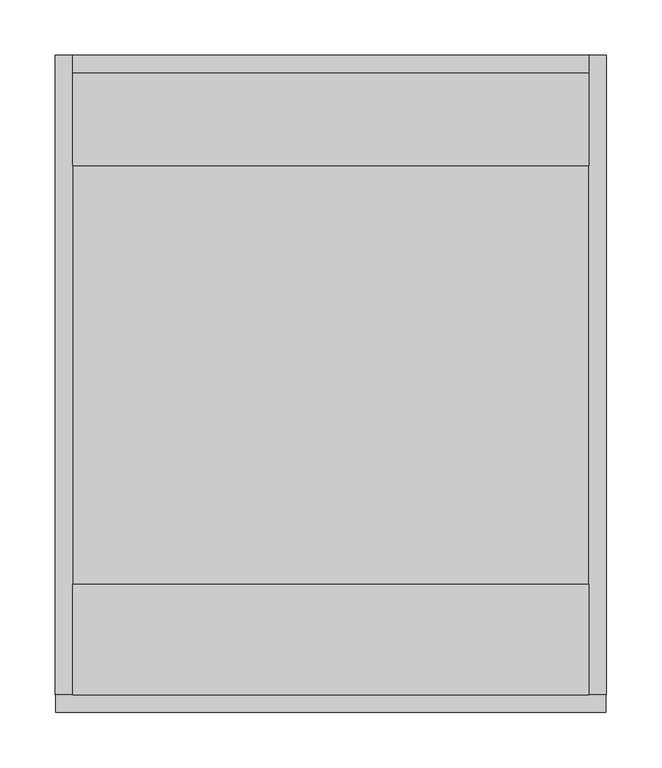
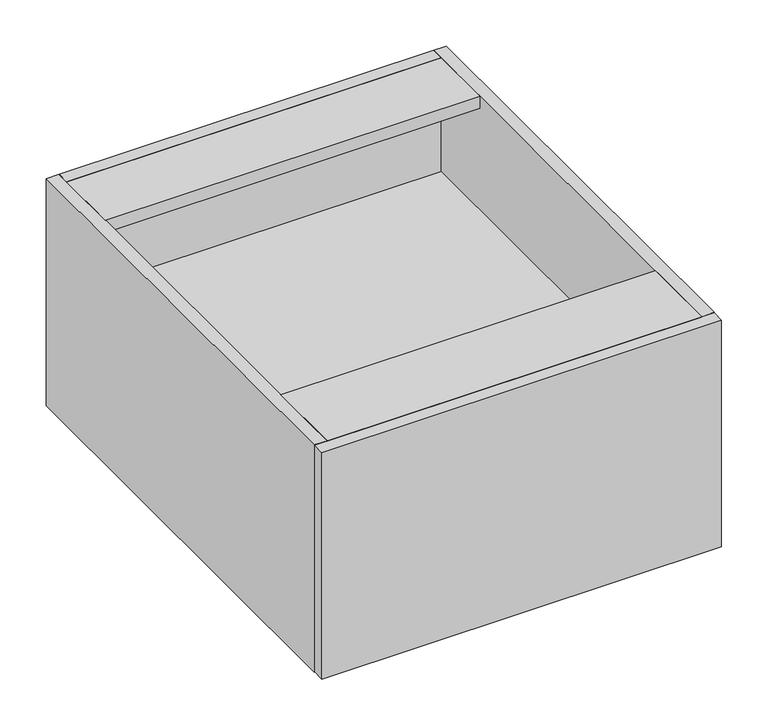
"""IFC4 building model written with IfcOpenShell, lengths in millimetres: furniture geometry, یونیت 1 در عمودی : یونیت 1 در عمودی."""

from ifc_helpers import new_model, si_unit, frame, origin, place, context, project, spatial, polyline, outline, extrude, faceted_brep, source, transform, mapped, element, save


def furniture_4b3c3050(model_context):
    return source(origin(), model_context, "Body", "SolidModel", [
        extrude(outline(polyline([(234.0, 0.0), (234.0, -16.0), (-234.0, -16.0), (-234.0, 0.0), (234.0, 0.0)])), frame((0.0, 0.0, 500.0), z_axis=(0.0, 0.0, 1.0), x_axis=(1.0, 0.0, 0.0)), (0.0, 0.0, 1.0), 300.0),
        extrude(outline(polyline([(234.0, -16.0), (234.0, -100.0), (-234.0, -100.0), (-234.0, -16.0), (234.0, -16.0)])), frame((0.0, 0.0, 784.0), z_axis=(0.0, 0.0, 1.0), x_axis=(1.0, 0.0, 0.0)), (0.0, 0.0, 1.0), 16.0),
        extrude(outline(polyline([(234.0, -480.0), (234.0, -580.0), (-234.0, -580.0), (-234.0, -480.0), (234.0, -480.0)])), frame((0.0, 0.0, 784.0), z_axis=(0.0, 0.0, 1.0), x_axis=(1.0, 0.0, 0.0)), (0.0, 0.0, 1.0), 16.0),
        extrude(outline(polyline([(234.0, -16.0), (234.0, -580.0), (-234.0, -580.0), (-234.0, -16.0), (234.0, -16.0)])), frame((0.0, 0.0, 500.0), z_axis=(0.0, 0.0, 1.0), x_axis=(1.0, 0.0, 0.0)), (0.0, 0.0, 1.0), 16.0),
        extrude(outline(polyline([(234.0, -16.0), (234.0, -480.0), (-234.0, -480.0), (-234.0, -16.0), (234.0, -16.0)])), frame((0.0, 0.0, 634.0), z_axis=(0.0, 0.0, 1.0), x_axis=(1.0, 0.0, 0.0)), (0.0, 0.0, 1.0), 16.0),
        extrude(outline(polyline([(249.6, -596.0), (-249.6, -596.0), (-249.6, -580.0), (249.6, -580.0), (249.6, -596.0)])), frame((0.0, 0.0, 500.4), z_axis=(0.0, 0.0, 1.0), x_axis=(1.0, 0.0, 0.0)), (0.0, 0.0, 1.0), 299.2),
        extrude(outline(polyline([(244.0, -468.0), (244.0, -480.0), (235.0, -480.0), (235.0, -479.0), (243.0, -479.0), (243.0, -469.0), (235.0, -469.0), (235.0, -468.0), (244.0, -468.0)])), frame((0.0, 0.0, 516.0), z_axis=(0.0, 0.0, 1.0), x_axis=(1.0, 0.0, 0.0)), (0.0, 0.0, 1.0), 268.0),
        extrude(outline(polyline([(-244.0, -468.0), (-235.0, -468.0), (-235.0, -469.0), (-243.0, -469.0), (-243.0, -479.0), (-235.0, -479.0), (-235.0, -480.0), (-244.0, -480.0), (-244.0, -468.0)])), frame((0.0, 0.0, 516.0), z_axis=(0.0, 0.0, 1.0), x_axis=(1.0, 0.0, 0.0)), (0.0, 0.0, 1.0), 268.0),
        extrude(outline(polyline([(235.0, -468.0), (235.0, -480.0), (234.0, -480.0), (234.0, -468.0), (235.0, -468.0)])), frame((0.0, 0.0, 516.0), z_axis=(0.0, 0.0, 1.0), x_axis=(1.0, 0.0, 0.0)), (0.0, 0.0, 1.0), 268.0),
        extrude(outline(polyline([(-235.0, -468.0), (-234.0, -468.0), (-234.0, -480.0), (-235.0, -480.0), (-235.0, -468.0)])), frame((0.0, 0.0, 516.0), z_axis=(0.0, 0.0, 1.0), x_axis=(1.0, 0.0, 0.0)), (0.0, 0.0, 1.0), 268.0),
        faceted_brep([(-234.0, 0.0, 800.0), (-250.0, 0.0, 800.0), (-250.0, -580.0, 800.0), (-234.0, -580.0, 800.0), (-234.0, 0.0, 500.0), (-234.0, -580.0, 500.0), (-250.0, -580.0, 500.0), (-250.0, 0.0, 500.0), (-234.0, -480.0, 784.0), (-234.0, -468.0, 784.0), (-234.0, -468.0, 516.0), (-234.0, -480.0, 516.0), (-244.0, -480.0, 784.0), (-244.0, -468.0, 784.0), (-244.0, -468.0, 516.0), (-244.0, -480.0, 516.0)], [[[0, 1, 2, 3]], [[4, 5, 6, 7]], [[1, 0, 4, 7]], [[2, 1, 7, 6]], [[3, 2, 6, 5]], [[0, 3, 5, 4], [8, 9, 10, 11]], [[8, 12, 13, 9]], [[10, 14, 15, 11]], [[9, 13, 14, 10]], [[13, 12, 15, 14]], [[12, 8, 11, 15]]]),
        faceted_brep([(234.0, 0.0, 800.0), (234.0, -580.0, 800.0), (250.0, -580.0, 800.0), (250.0, 0.0, 800.0), (234.0, 0.0, 500.0), (250.0, 0.0, 500.0), (250.0, -580.0, 500.0), (234.0, -580.0, 500.0), (234.0, -468.0, 784.0), (234.0, -480.0, 784.0), (234.0, -480.0, 516.0), (234.0, -468.0, 516.0), (244.0, -468.0, 784.0), (244.0, -480.0, 784.0), (244.0, -468.0, 516.0), (244.0, -480.0, 516.0)], [[[0, 1, 2, 3]], [[4, 5, 6, 7]], [[1, 0, 4, 7], [8, 9, 10, 11]], [[2, 1, 7, 6]], [[3, 2, 6, 5]], [[0, 3, 5, 4]], [[12, 13, 9, 8]], [[14, 11, 10, 15]], [[12, 8, 11, 14]], [[9, 13, 15, 10]], [[13, 12, 14, 15]]]),
    ])


if __name__ == "__main__":
    model = new_model("IFC4")
    model_context = context("Model", 3, world=origin())
    ifc_project = project(units=[si_unit("LENGTHUNIT", "METRE", prefix="MILLI")], contexts=[model_context])
    site = spatial("IfcSite", under=ifc_project)
    building = spatial("IfcBuilding", under=site)
    placement = place(None, origin())
    furniture_shape = furniture_4b3c3050(model_context)
    element("IfcFurniture", 1, ObjectType="یونیت 1 در عمودی : یونیت 1 در عمودی", at=placement, inside=building, context=model_context, shape_type="MappedRepresentation", body=[
        mapped(furniture_shape, transform((0.0, 0.0, 0.0), x_axis=(1.0, 0.0, 0.0), y_axis=(0.0, 1.0, 0.0), z_axis=(0.0, 0.0, 1.0))),
    ])
    save(model, "model.ifc")
